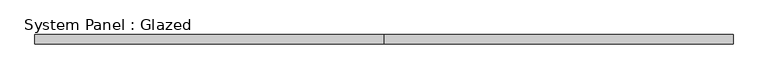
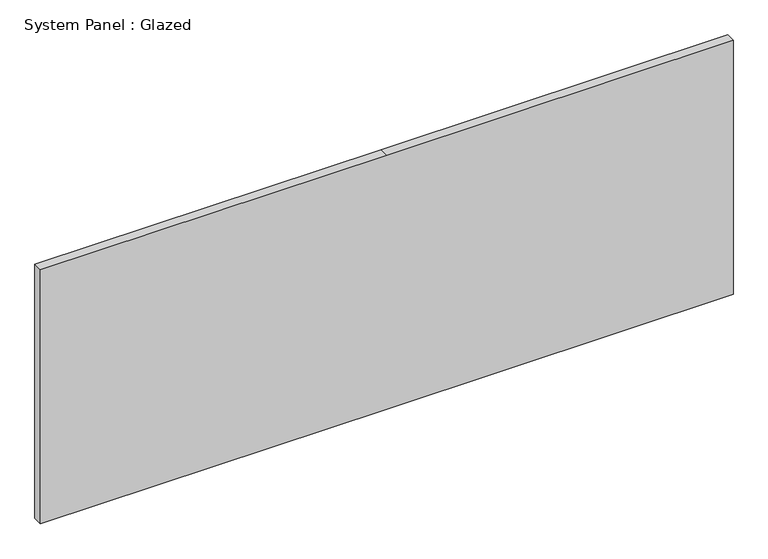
"""IFC4 building model written with IfcOpenShell, lengths in millimetres: plate geometry, System Panel : Glazed."""

from ifc_helpers import new_model, si_unit, frame, origin, place, context, project, spatial, polyline, outline, extrude, source, transform, mapped, element, save


def system_panel_glazed_23cc593c(model_context):
    return source(origin(), model_context, "Body", "SweptSolid", [
        extrude(outline(polyline([(0.0, -933.45), (0.0, 0.0), (0.0, 933.45), (723.9, 933.45), (723.9, 0.0), (723.9, -933.45), (0.0, -933.45)])), frame((0.0, 19.05, 0.0), z_axis=(0.0, 1.0, 0.0), x_axis=(0.0, 0.0, 1.0)), (0.0, 0.0, 1.0), 25.4),
    ])


if __name__ == "__main__":
    model = new_model("IFC4")
    model_context = context("Model", 3, world=origin())
    ifc_project = project(units=[si_unit("LENGTHUNIT", "METRE", prefix="MILLI")], contexts=[model_context])
    site = spatial("IfcSite", under=ifc_project)
    building = spatial("IfcBuilding", under=site)
    placement = place(None, origin())
    system_panel_glazed_shape = system_panel_glazed_23cc593c(model_context)
    element("IfcPlate", 1, ObjectType="System Panel : Glazed", at=placement, inside=building, context=model_context, shape_type="MappedRepresentation", body=[
        mapped(system_panel_glazed_shape, transform((0.0, 0.0, 0.0), x_axis=(1.0, 0.0, 0.0), y_axis=(0.0, 1.0, 0.0), z_axis=(0.0, 0.0, 1.0))),
    ])
    save(model, "model.ifc")
